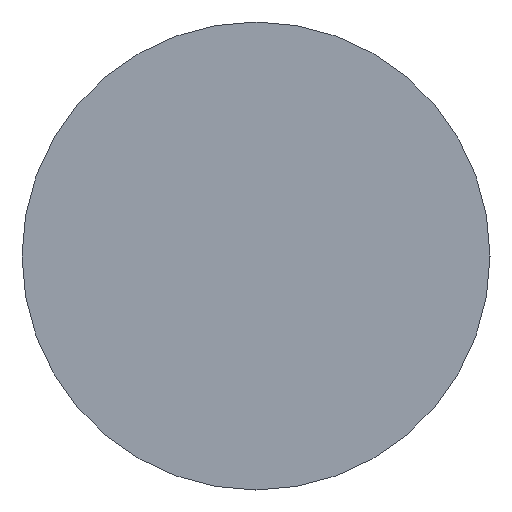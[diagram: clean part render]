
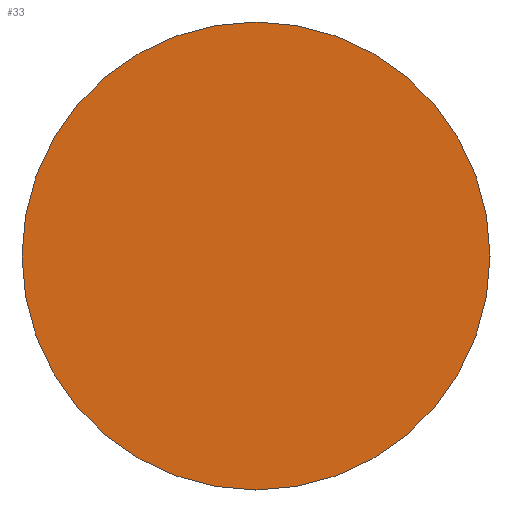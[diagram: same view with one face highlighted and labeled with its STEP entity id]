
A CAD part, left-side view. The second image highlights one B-rep face of the part: STEP entity #33.
In plain terms, the highlighted planar face has unit normal (-1, 0, 0).
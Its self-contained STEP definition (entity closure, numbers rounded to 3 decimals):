
#12 = EDGE_LOOP ( 'NONE', ( #508, #16 ) ) ;
#16 = ORIENTED_EDGE ( 'NONE', *, *, #258, .T. ) ;
#33 = ADVANCED_FACE ( 'NONE', ( #293 ), #294, .F. ) ;
#55 = VERTEX_POINT ( 'NONE', #138 ) ;
#72 = EDGE_CURVE ( 'NONE', #369, #55, #208, .T. ) ;
#106 = CARTESIAN_POINT ( 'NONE',  ( 0., 0., 6. ) ) ;
#138 = CARTESIAN_POINT ( 'NONE',  ( 0., 0., -6. ) ) ;
#208 = CIRCLE ( 'NONE', #209, 6. ) ;
#209 = AXIS2_PLACEMENT_3D ( 'NONE', #210, #211, #212 ) ;
#210 = CARTESIAN_POINT ( 'NONE',  ( 0., 0., 0. ) ) ;
#211 = DIRECTION ( 'NONE',  ( -1., 0., 0. ) ) ;
#212 = DIRECTION ( 'NONE',  ( 0., 0., 1. ) ) ;
#258 = EDGE_CURVE ( 'NONE', #55, #369, #370, .T. ) ;
#293 = FACE_OUTER_BOUND ( 'NONE', #12, .T. ) ;
#294 = PLANE ( 'NONE',  #297 ) ;
#297 = AXIS2_PLACEMENT_3D ( 'NONE', #298, #299, #300 ) ;
#298 = CARTESIAN_POINT ( 'NONE',  ( 0., 6., 0. ) ) ;
#299 = DIRECTION ( 'NONE',  ( 1., 0., 0. ) ) ;
#300 = DIRECTION ( 'NONE',  ( 0., 0., -1. ) ) ;
#369 = VERTEX_POINT ( 'NONE', #106 ) ;
#370 = CIRCLE ( 'NONE', #371, 6. ) ;
#371 = AXIS2_PLACEMENT_3D ( 'NONE', #372, #373, #374 ) ;
#372 = CARTESIAN_POINT ( 'NONE',  ( 0., 0., 0. ) ) ;
#373 = DIRECTION ( 'NONE',  ( -1., 0., 0. ) ) ;
#374 = DIRECTION ( 'NONE',  ( 0., 0., 1. ) ) ;
#508 = ORIENTED_EDGE ( 'NONE', *, *, #72, .T. ) ;
